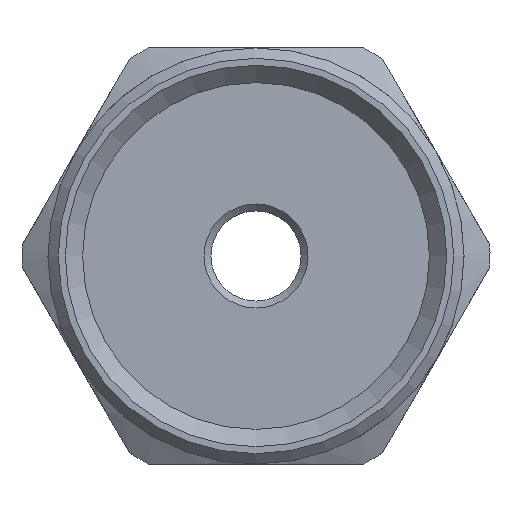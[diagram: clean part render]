
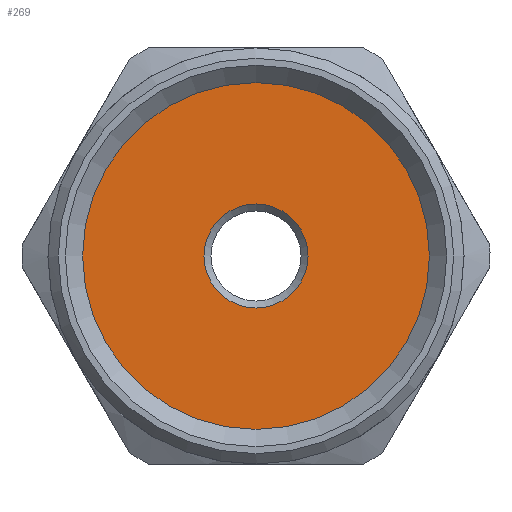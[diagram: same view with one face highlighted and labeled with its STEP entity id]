
A CAD part, left-side view. The second image highlights one B-rep face of the part: STEP entity #269.
In plain terms, the highlighted planar face has unit normal (-1, 0, 0).
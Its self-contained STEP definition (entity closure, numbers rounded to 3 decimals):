
#269=ADVANCED_FACE('',(#655,#656),#657,.F.);
#655=FACE_BOUND('',#1135,.T.);
#656=FACE_OUTER_BOUND('',#1136,.T.);
#657=PLANE('',#1137);
#1135=EDGE_LOOP('',(#2138));
#1136=EDGE_LOOP('',(#2139));
#1137=AXIS2_PLACEMENT_3D('',#2140,#2141,#2142);
#2138=ORIENTED_EDGE('',*,*,#2597,.T.);
#2139=ORIENTED_EDGE('',*,*,#2638,.F.);
#2140=CARTESIAN_POINT('',(0.9,0.,0.));
#2141=DIRECTION('',(1.0,0.0,0.0));
#2142=DIRECTION('',(0.0,1.0,0.0));
#2597=EDGE_CURVE('',#2804,#2804,#2805,.T.);
#2638=EDGE_CURVE('',#2851,#2851,#2852,.T.);
#2804=VERTEX_POINT('',#3134);
#2805=CIRCLE('',#3135,1.5);
#2851=VERTEX_POINT('',#3181);
#2852=CIRCLE('',#3182,5.0);
#3134=CARTESIAN_POINT('',(0.9,0.,-1.5));
#3135=AXIS2_PLACEMENT_3D('',#3324,#3325,#3326);
#3181=CARTESIAN_POINT('',(0.9,-2.5,-4.33));
#3182=AXIS2_PLACEMENT_3D('',#3342,#3343,#3344);
#3324=CARTESIAN_POINT('',(0.9,0.,0.));
#3325=DIRECTION('',(1.0,0.0,0.0));
#3326=DIRECTION('',(0.0,0.0,-1.0));
#3342=CARTESIAN_POINT('',(0.9,0.,0.));
#3343=DIRECTION('',(1.0,0.0,0.0));
#3344=DIRECTION('',(0.0,-0.5,-0.866));
